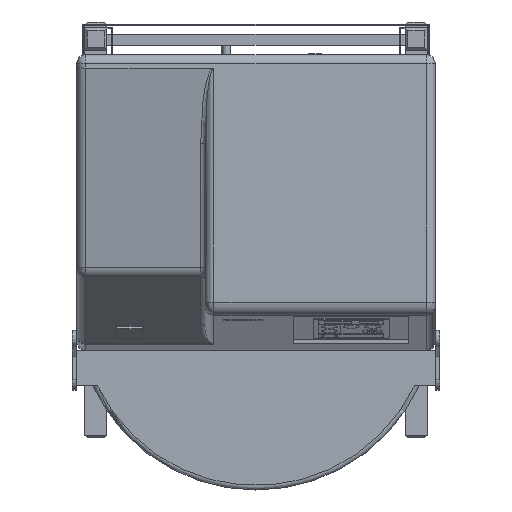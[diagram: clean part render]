
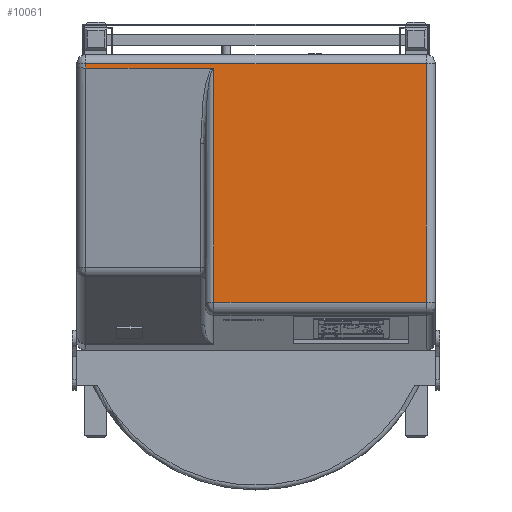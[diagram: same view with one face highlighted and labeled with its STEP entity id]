
A CAD part, top view. The second image highlights one B-rep face of the part: STEP entity #10061.
In plain terms, the highlighted planar face has unit normal (0, 0, 1).
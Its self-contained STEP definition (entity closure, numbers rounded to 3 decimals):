
#712=B_SPLINE_CURVE_WITH_KNOTS('',3,(#15703,#15704,#15705,#15706,#15707,
#15708,#15709,#15710),.UNSPECIFIED.,.F.,.F.,(4,2,2,4),(-0.001,
0.,0.073,0.159),.UNSPECIFIED.);
#1089=FACE_OUTER_BOUND('',#1707,.T.);
#1707=EDGE_LOOP('',(#7529,#7530,#7531,#7532,#7533,#7534,#7535));
#2469=LINE('',#15718,#3463);
#2473=LINE('',#15749,#3467);
#2481=LINE('',#15791,#3475);
#2482=LINE('',#15794,#3476);
#2483=LINE('',#15796,#3477);
#2484=LINE('',#15797,#3478);
#3463=VECTOR('',#11812,10.);
#3467=VECTOR('',#11836,10.);
#3475=VECTOR('',#11880,10.);
#3476=VECTOR('',#11883,10.);
#3477=VECTOR('',#11884,10.);
#3478=VECTOR('',#11885,10.);
#4479=VERTEX_POINT('',#15701);
#4480=VERTEX_POINT('',#15702);
#4482=VERTEX_POINT('',#15716);
#4489=VERTEX_POINT('',#15746);
#4490=VERTEX_POINT('',#15748);
#4498=VERTEX_POINT('',#15793);
#4499=VERTEX_POINT('',#15795);
#5573=EDGE_CURVE('',#4479,#4480,#712,.T.);
#5578=EDGE_CURVE('',#4482,#4479,#2469,.T.);
#5588=EDGE_CURVE('',#4489,#4490,#2473,.T.);
#5606=EDGE_CURVE('',#4490,#4482,#2481,.T.);
#5607=EDGE_CURVE('',#4498,#4489,#2482,.T.);
#5608=EDGE_CURVE('',#4499,#4498,#2483,.T.);
#5609=EDGE_CURVE('',#4499,#4480,#2484,.T.);
#7529=ORIENTED_EDGE('',*,*,#5578,.F.);
#7530=ORIENTED_EDGE('',*,*,#5606,.F.);
#7531=ORIENTED_EDGE('',*,*,#5588,.F.);
#7532=ORIENTED_EDGE('',*,*,#5607,.F.);
#7533=ORIENTED_EDGE('',*,*,#5608,.F.);
#7534=ORIENTED_EDGE('',*,*,#5609,.T.);
#7535=ORIENTED_EDGE('',*,*,#5573,.F.);
#9589=PLANE('',#10644);
#10061=ADVANCED_FACE('',(#1089),#9589,.T.);
#10644=AXIS2_PLACEMENT_3D('',#15792,#11881,#11882);
#11812=DIRECTION('',(0.,1.,0.));
#11836=DIRECTION('',(0.,-1.,0.));
#11880=DIRECTION('',(-1.,0.,0.));
#11881=DIRECTION('center_axis',(0.,0.,1.));
#11882=DIRECTION('ref_axis',(0.,-1.,0.));
#11883=DIRECTION('',(1.,0.,0.));
#11884=DIRECTION('',(0.,1.,0.));
#11885=DIRECTION('',(1.,0.,0.));
#15701=CARTESIAN_POINT('',(-47.5,-53.976,890.));
#15702=CARTESIAN_POINT('',(-49.004,-53.54,890.));
#15703=CARTESIAN_POINT('Ctrl Pts',(-47.5,-53.976,890.));
#15704=CARTESIAN_POINT('Ctrl Pts',(-47.502,-53.975,890.));
#15705=CARTESIAN_POINT('Ctrl Pts',(-47.504,-53.974,
890.));
#15706=CARTESIAN_POINT('Ctrl Pts',(-47.705,-53.832,
890.));
#15707=CARTESIAN_POINT('Ctrl Pts',(-47.924,-53.729,890.));
#15708=CARTESIAN_POINT('Ctrl Pts',(-48.43,-53.576,
890.));
#15709=CARTESIAN_POINT('Ctrl Pts',(-48.717,-53.54,
890.));
#15710=CARTESIAN_POINT('Ctrl Pts',(-49.004,-53.54,
890.));
#15716=CARTESIAN_POINT('',(-47.5,-318.157,890.));
#15718=CARTESIAN_POINT('',(-47.5,-123.934,890.));
#15746=CARTESIAN_POINT('',(192.5,-48.54,890.));
#15748=CARTESIAN_POINT('',(192.5,-318.157,890.));
#15749=CARTESIAN_POINT('',(192.5,-121.923,890.));
#15791=CARTESIAN_POINT('',(0.,-318.157,890.));
#15792=CARTESIAN_POINT('Origin',(0.,-38.54,890.));
#15793=CARTESIAN_POINT('',(-192.5,-48.54,890.));
#15794=CARTESIAN_POINT('',(0.,-48.54,890.));
#15795=CARTESIAN_POINT('',(-192.5,-53.54,890.));
#15796=CARTESIAN_POINT('',(-192.5,-121.923,890.));
#15797=CARTESIAN_POINT('',(-101.25,-53.54,890.));
